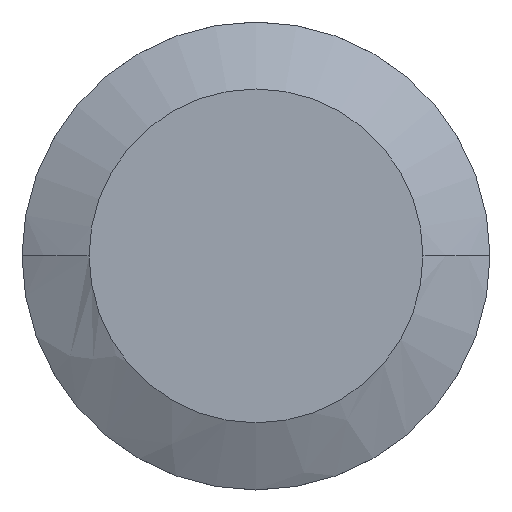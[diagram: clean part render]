
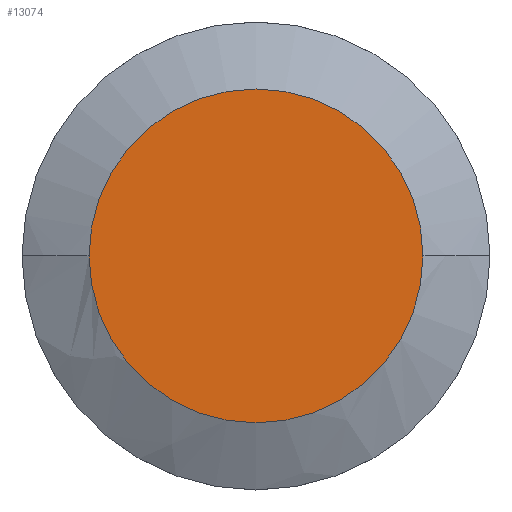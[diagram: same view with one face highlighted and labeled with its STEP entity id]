
A CAD part, top view. The second image highlights one B-rep face of the part: STEP entity #13074.
In plain terms, the highlighted planar face has unit normal (0, 0, 1).
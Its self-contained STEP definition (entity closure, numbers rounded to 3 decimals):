
#201=CARTESIAN_POINT('',(0.,0.,25.3));
#202=DIRECTION('',(0.,0.,1.));
#203=DIRECTION('',(-1.,0.,0.));
#204=AXIS2_PLACEMENT_3D('',#201,#202,#203);
#206=CARTESIAN_POINT('',(0.,0.,25.3));
#207=DIRECTION('',(0.,0.,-1.));
#208=DIRECTION('',(-1.,0.,0.));
#209=AXIS2_PLACEMENT_3D('',#206,#207,#208);
#10884=CARTESIAN_POINT('',(-7.848,0.,25.3));
#10885=CARTESIAN_POINT('',(7.848,0.,25.3));
#10886=VERTEX_POINT('',#10884);
#10887=VERTEX_POINT('',#10885);
#13065=CARTESIAN_POINT('',(0.,0.,25.3));
#13066=DIRECTION('',(0.,0.,-1.));
#13067=DIRECTION('',(1.,0.,0.));
#13068=AXIS2_PLACEMENT_3D('',#13065,#13066,#13067);
#13069=PLANE('',#13068);
#13070=ORIENTED_EDGE('',*,*,#13044,.T.);
#13071=ORIENTED_EDGE('',*,*,#13060,.F.);
#13072=EDGE_LOOP('',(#13070,#13071));
#13073=FACE_OUTER_BOUND('',#13072,.F.);
#13074=ADVANCED_FACE('',(#13073),#13069,.F.);
#205=CIRCLE('',#204,7.848);
#210=CIRCLE('',#209,7.848);
#13044=EDGE_CURVE('',#10886,#10887,#210,.T.);
#13060=EDGE_CURVE('',#10886,#10887,#205,.T.);
